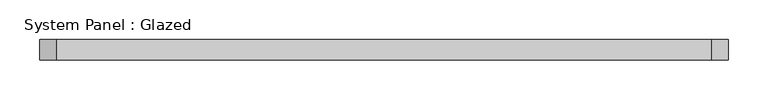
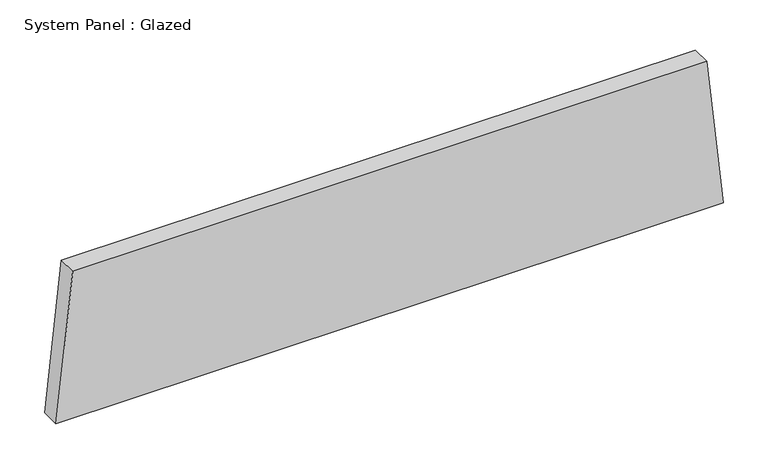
"""IFC4 building model written with IfcOpenShell, lengths in millimetres: plate geometry, System Panel : Glazed."""

from ifc_helpers import new_model, si_unit, frame, origin, place, context, project, spatial, polyline, outline, extrude, source, transform, mapped, element, save


def system_panel_glazed_5d54433e(model_context):
    return source(origin(), model_context, "Body", "SweptSolid", [
        extrude(outline(polyline([(0.0, -431.521051), (0.0, 431.521051), (201.0481529, 410.0735374), (201.0481529, -410.0735374), (0.0, -431.521051)])), frame((0.0, 19.05, 0.0), z_axis=(0.0, 1.0, 0.0), x_axis=(0.0, 0.0, 1.0)), (0.0, 0.0, 1.0), 25.4),
    ])


if __name__ == "__main__":
    model = new_model("IFC4")
    model_context = context("Model", 3, world=origin())
    ifc_project = project(units=[si_unit("LENGTHUNIT", "METRE", prefix="MILLI")], contexts=[model_context])
    site = spatial("IfcSite", under=ifc_project)
    building = spatial("IfcBuilding", under=site)
    placement = place(None, origin())
    system_panel_glazed_shape = system_panel_glazed_5d54433e(model_context)
    element("IfcPlate", 1, ObjectType="System Panel : Glazed", at=placement, inside=building, context=model_context, shape_type="MappedRepresentation", body=[
        mapped(system_panel_glazed_shape, transform((0.0, 0.0, 0.0), x_axis=(1.0, 0.0, 0.0), y_axis=(0.0, 1.0, 0.0), z_axis=(0.0, 0.0, 1.0))),
    ])
    save(model, "model.ifc")
